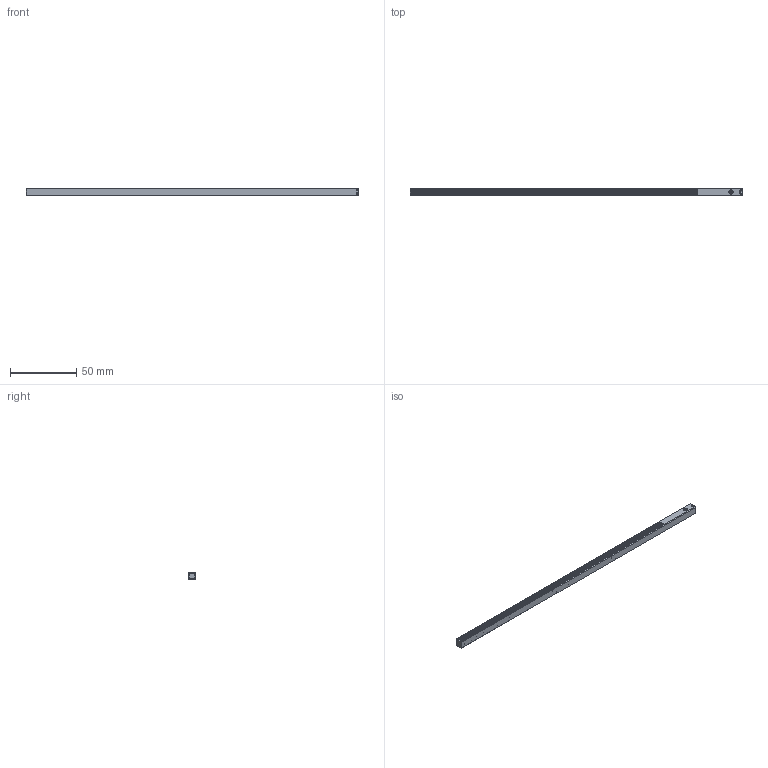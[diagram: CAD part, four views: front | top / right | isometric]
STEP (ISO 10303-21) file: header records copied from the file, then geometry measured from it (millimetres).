
FILE_DESCRIPTION(/* description */ (''),/* implementation_level */ '2;1');
FILE_NAME(/* name */ 'Capture-KMC20 I',/* time_stamp */ '2026-03-16T15:41:15+01:00',/* author */ (''),/* organization */ (''),/* preprocessor_version */ 'ST-DEVELOPER v19.2',/* originating_system */ 'Rhino 8.24',/* authorisation */ '');
FILE_SCHEMA (('CONFIG_CONTROL_DESIGN'));
Products named in the file (4): Document; MCP197A01_01; VTM1FX2BBSIXO; MCP197A02_01
Bounding box: 250 x 6 x 6 mm (x, y, z)
Volume: 3444.5 mm3; surface area: 14192.4 mm2
Topology: 3 solids, 3 shells, 11614 faces, 36596 edges, 24384 vertices
Faces by surface type: plane 11571, cylinder 30, bspline 13
Entity records: 360956 total; most frequent: CARTESIAN_POINT 110263, ORIENTED_EDGE 73192, EDGE_CURVE 36596, B_SPLINE_CURVE_WITH_KNOTS 36518, VERTEX_POINT 24384, EDGE_LOOP 16452, DIRECTION 11741, AXIS2_PLACEMENT_3D 11671
